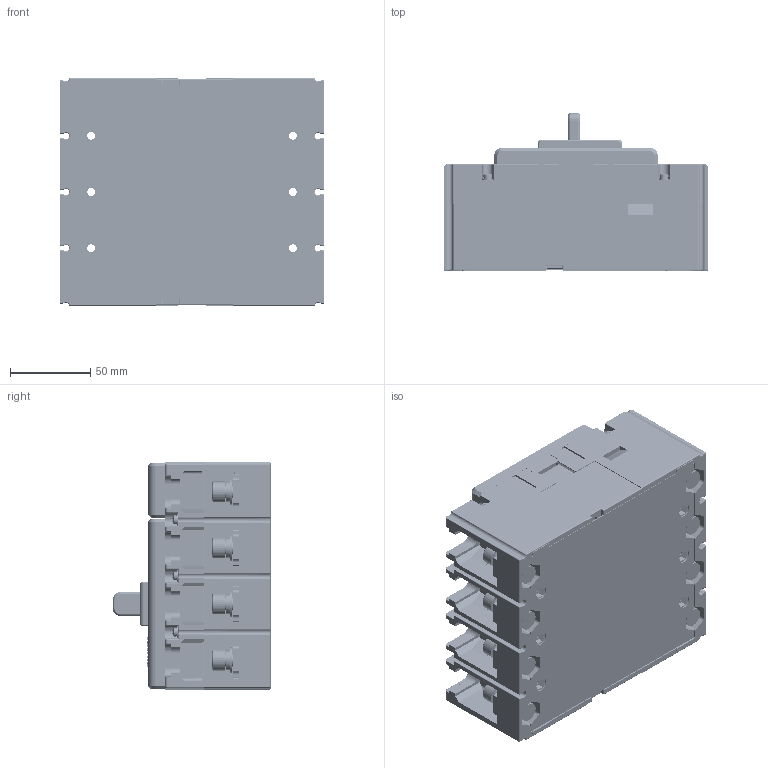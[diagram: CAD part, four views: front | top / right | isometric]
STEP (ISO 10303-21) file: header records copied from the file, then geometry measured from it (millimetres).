
FILE_DESCRIPTION((''),'2;1');
FILE_NAME('2253030100_ASM_4_ASM_1_ASM','2025-04-28T',('Administrator'),(''),'PRO/ENGINEER BY PARAMETRIC TECHNOLOGY CORPORATION, 2015440','PRO/ENGINEER BY PARAMETRIC TECHNOLOGY CORPORATION, 2015440','');
FILE_SCHEMA(('CONFIG_CONTROL_DESIGN'));
Products named in the file (41): JZ-5024044400_3_1; GB_T809-M3X12_8_1; 5024044400_ASM_2_ASM_1_ASM; 8940007200_8_1; 8585064000_5_1; 8551033200_5_1; 8585064500_4_1; 5295008100_ASM_5_ASM_1_ASM; 8751002200_5_1; 8750030100_5_1; 8253076600_8_1; 5253029200_ASM_9_ASM_1_ASM; GB_T809-M3X8_8_1; 5315050100_ASM_4_ASM_1_ASM; 8282018100_AF1_8_1; 8253077300_8_1; 5315051300_ASM_4_ASM_1_ASM; 8315095900_8_1; 8315096000_5_1; 7010100305R01_GB_T823_M3X10_8_1; 7090300201_GB_T93_3_8_1; GB_T97_4_3_8_1; 5850007700_ASM_8_ASM_1_ASM; 5315051500_ASM_5_ASM_1_ASM; GB_T70_1-M8X20_8_1; 7090200704_GB_T97_1_8_8_1; 7090370701K_GB_T93_8_8_1; 5850004100_AF40_ASM_9_ASM_1_ASM; 5850004100_AF41_ASM_9_ASM_1_ASM; 5850004100_AF42_ASM_9_ASM_1_ASM; 5850004100_AF43_ASM_9_ASM_1_ASM; 5850004100_AF44_ASM_9_ASM_1_ASM; 5850004100_AF45_ASM_9_ASM_1_ASM; 5850004100_AF46_ASM_9_ASM_1_ASM; 5850004100_AF47_ASM_9_ASM_1_ASM; 8742102800_5_1; 7030100225_GB_T9074_4-M3X30_8_1; ZG-5315076400; GB_T809-M3X8; 5315076400_ASM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
Assembly tree (112 placements, depth 5):
  2253030100_ASM_4_ASM_1_ASM
    5295008100_ASM_5_ASM_1_ASM
      5024044400_ASM_2_ASM_1_ASM
        JZ-5024044400_3_1
        GB_T809-M3X12_8_1  x10
      8940007200_8_1  x8
      8585064000_5_1  x3
      8551033200_5_1  x4
      8585064500_4_1
    8751002200_5_1  x4
    8750030100_5_1  x4
    5253029200_ASM_9_ASM_1_ASM
      8253076600_8_1
    5315051500_ASM_5_ASM_1_ASM
      5315051300_ASM_4_ASM_1_ASM
        5315050100_ASM_4_ASM_1_ASM
          GB_T809-M3X8_8_1  x6
        8282018100_AF1_8_1
        8253077300_8_1
      8315095900_8_1
      8315096000_5_1
      5850007700_ASM_8_ASM_1_ASM  x6
        7010100305R01_GB_T823_M3X10_8_1
        7090300201_GB_T93_3_8_1
        GB_T97_4_3_8_1
    5850004100_AF40_ASM_9_ASM_1_ASM
      GB_T70_1-M8X20_8_1
      7090200704_GB_T97_1_8_8_1
      7090370701K_GB_T93_8_8_1
    5850004100_AF41_ASM_9_ASM_1_ASM
      GB_T70_1-M8X20_8_1
      7090200704_GB_T97_1_8_8_1
      7090370701K_GB_T93_8_8_1
    5850004100_AF42_ASM_9_ASM_1_ASM
      GB_T70_1-M8X20_8_1
      7090200704_GB_T97_1_8_8_1
      7090370701K_GB_T93_8_8_1
    5850004100_AF44_ASM_9_ASM_1_ASM
      GB_T70_1-M8X20_8_1
      7090200704_GB_T97_1_8_8_1
      7090370701K_GB_T93_8_8_1
      5850004100_AF43_ASM_9_ASM_1_ASM
        GB_T70_1-M8X20_8_1
        7090200704_GB_T97_1_8_8_1
        7090370701K_GB_T93_8_8_1
    5850004100_AF45_ASM_9_ASM_1_ASM
      GB_T70_1-M8X20_8_1
      7090200704_GB_T97_1_8_8_1
      7090370701K_GB_T93_8_8_1
    5850004100_AF46_ASM_9_ASM_1_ASM
      GB_T70_1-M8X20_8_1
      7090200704_GB_T97_1_8_8_1
      7090370701K_GB_T93_8_8_1
    5850004100_AF47_ASM_9_ASM_1_ASM
      GB_T70_1-M8X20_8_1
      7090200704_GB_T97_1_8_8_1
      7090370701K_GB_T93_8_8_1
    8742102800_5_1
    7030100225_GB_T9074_4-M3X30_8_1  x10
    5315076400_ASM
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Bounding box: 165 x 99 x 142 mm (x, y, z)
Volume: 1165537.7 mm3; surface area: 367389.9 mm2
Topology: 106 solids, 112 shells, 7474 faces, 19071 edges, 11987 vertices
Faces by surface type: plane 3550, cylinder 2523, torus 542, cone 342, sphere 250, extrusion 150, bspline 117
Entity records: 199551 total; most frequent: CARTESIAN_POINT 51573, DIRECTION 30975, ORIENTED_EDGE 30772, EDGE_CURVE 15388, AXIS2_PLACEMENT_3D 10536, VECTOR 9903, LINE 9753, VERTEX_POINT 9711
